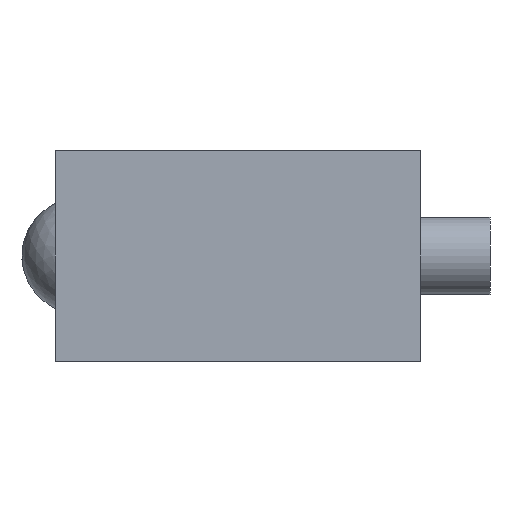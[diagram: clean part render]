
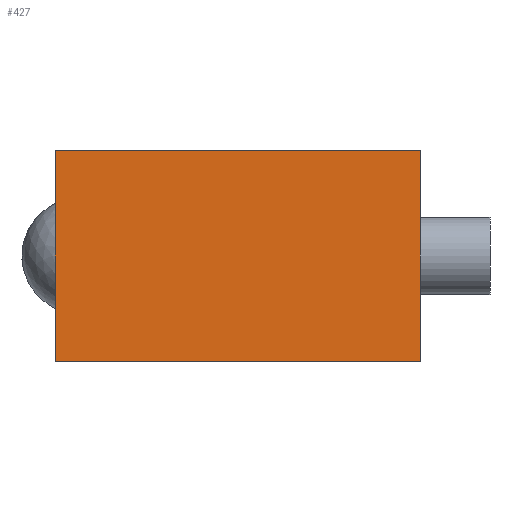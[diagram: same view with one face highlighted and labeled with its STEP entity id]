
A CAD part, left-side view. The second image highlights one B-rep face of the part: STEP entity #427.
In plain terms, the highlighted planar face has unit normal (-1, 0, 0).
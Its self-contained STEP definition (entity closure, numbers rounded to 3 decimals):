
#21=LINE('',#709,#37);
#27=LINE('',#724,#43);
#31=LINE('',#736,#47);
#33=LINE('',#739,#49);
#37=VECTOR('',#600,10.);
#43=VECTOR('',#610,10.);
#47=VECTOR('',#626,10.);
#49=VECTOR('',#630,10.);
#82=PLANE('',#503);
#112=FACE_OUTER_BOUND('',#162,.T.);
#162=EDGE_LOOP('',(#339,#340,#341,#342));
#214=VERTEX_POINT('',#707);
#215=VERTEX_POINT('',#708);
#221=VERTEX_POINT('',#721);
#222=VERTEX_POINT('',#723);
#250=EDGE_CURVE('',#214,#215,#21,.T.);
#257=EDGE_CURVE('',#221,#222,#27,.T.);
#263=EDGE_CURVE('',#222,#214,#31,.T.);
#265=EDGE_CURVE('',#215,#221,#33,.T.);
#339=ORIENTED_EDGE('',*,*,#257,.F.);
#340=ORIENTED_EDGE('',*,*,#265,.F.);
#341=ORIENTED_EDGE('',*,*,#250,.F.);
#342=ORIENTED_EDGE('',*,*,#263,.F.);
#427=ADVANCED_FACE('',(#112),#82,.T.);
#503=AXIS2_PLACEMENT_3D('',#738,#628,#629);
#600=DIRECTION('',(0.,0.,1.));
#610=DIRECTION('',(0.,0.,-1.));
#626=DIRECTION('',(0.,1.,0.));
#628=DIRECTION('center_axis',(-1.,0.,0.));
#629=DIRECTION('ref_axis',(0.,-1.,0.));
#630=DIRECTION('',(0.,-1.,0.));
#707=CARTESIAN_POINT('',(-255.,18.9,-10.9));
#708=CARTESIAN_POINT('',(-255.,18.9,10.9));
#709=CARTESIAN_POINT('',(-255.,18.9,0.));
#721=CARTESIAN_POINT('',(-255.,-18.9,10.9));
#723=CARTESIAN_POINT('',(-255.,-18.9,-10.9));
#724=CARTESIAN_POINT('',(-255.,-18.9,0.));
#736=CARTESIAN_POINT('',(-255.,18.9,-10.9));
#738=CARTESIAN_POINT('Origin',(-255.,18.9,0.));
#739=CARTESIAN_POINT('',(-255.,18.9,10.9));
